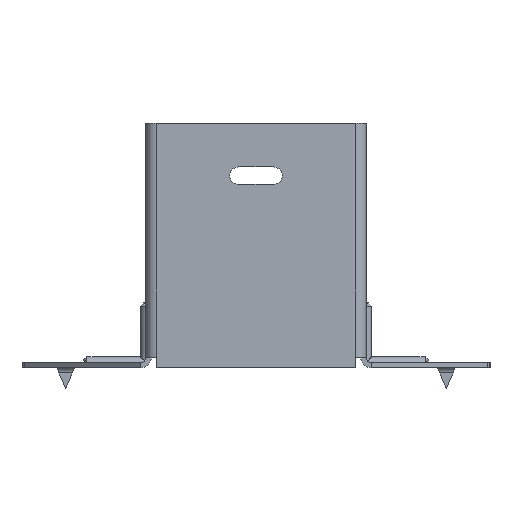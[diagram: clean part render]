
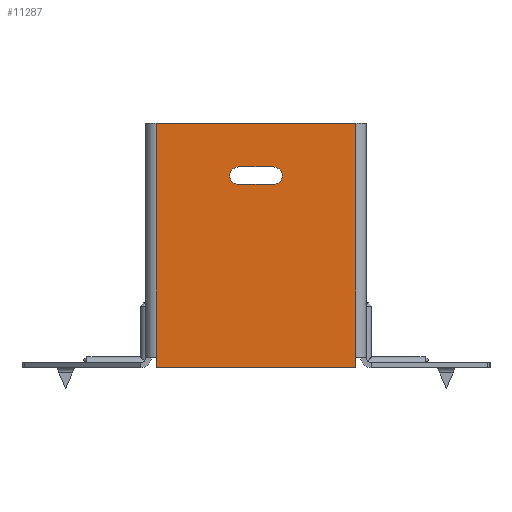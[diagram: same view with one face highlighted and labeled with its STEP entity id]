
A CAD part, front view. The second image highlights one B-rep face of the part: STEP entity #11287.
In plain terms, the highlighted planar face has unit normal (0, -1, 0).
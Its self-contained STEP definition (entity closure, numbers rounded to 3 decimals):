
#372 = ORIENTED_EDGE ( 'NONE', *, *, #1079, .T. ) ;
#516 = DIRECTION ( 'NONE',  ( 0., 0., 1. ) ) ;
#1079 = EDGE_CURVE ( 'NONE', #17560, #4650, #9767, .T. ) ;
#1291 = DIRECTION ( 'NONE',  ( 0., 0., 1. ) ) ;
#1431 = VECTOR ( 'NONE', #1291, 1000. ) ;
#1752 = DIRECTION ( 'NONE',  ( 0., 0., 1. ) ) ;
#1801 = ORIENTED_EDGE ( 'NONE', *, *, #13759, .T. ) ;
#1827 = FACE_BOUND ( 'NONE', #5494, .T. ) ;
#1831 = CIRCLE ( 'NONE', #5730, 2.5 ) ;
#2045 = DIRECTION ( 'NONE',  ( 0., 0., 1. ) ) ;
#2130 = VERTEX_POINT ( 'NONE', #10837 ) ;
#2208 = DIRECTION ( 'NONE',  ( -1., 0., 0. ) ) ;
#2437 = DIRECTION ( 'NONE',  ( 0., 0., -1. ) ) ;
#2515 = LINE ( 'NONE', #12326, #14431 ) ;
#2788 = VERTEX_POINT ( 'NONE', #18634 ) ;
#3167 = CARTESIAN_POINT ( 'NONE',  ( 28.5, 0., -70. ) ) ;
#3242 = CARTESIAN_POINT ( 'NONE',  ( -28.5, 0., 0. ) ) ;
#3283 = CIRCLE ( 'NONE', #11345, 2.5 ) ;
#3407 = EDGE_CURVE ( 'NONE', #12753, #2788, #17174, .T. ) ;
#3737 = DIRECTION ( 'NONE',  ( 1., 0., 0. ) ) ;
#3908 = VECTOR ( 'NONE', #15696, 1000. ) ;
#4015 = ORIENTED_EDGE ( 'NONE', *, *, #17749, .T. ) ;
#4337 = VECTOR ( 'NONE', #1752, 1000. ) ;
#4543 = VERTEX_POINT ( 'NONE', #10215 ) ;
#4650 = VERTEX_POINT ( 'NONE', #10650 ) ;
#4764 = LINE ( 'NONE', #3167, #1431 ) ;
#5494 = EDGE_LOOP ( 'NONE', ( #9152, #1801, #372, #4015 ) ) ;
#5690 = CARTESIAN_POINT ( 'NONE',  ( -5., 0., -12.5 ) ) ;
#5730 = AXIS2_PLACEMENT_3D ( 'NONE', #13702, #9386, #2045 ) ;
#6153 = DIRECTION ( 'NONE',  ( 0., 1., 0. ) ) ;
#6350 = CARTESIAN_POINT ( 'NONE',  ( -5., 0., -15. ) ) ;
#6747 = VECTOR ( 'NONE', #9003, 1000. ) ;
#7010 = ORIENTED_EDGE ( 'NONE', *, *, #17676, .T. ) ;
#7086 = VECTOR ( 'NONE', #2208, 1000. ) ;
#7510 = EDGE_CURVE ( 'NONE', #12707, #4543, #12480, .T. ) ;
#7711 = CARTESIAN_POINT ( 'NONE',  ( 0., 0., 0. ) ) ;
#8038 = CARTESIAN_POINT ( 'NONE',  ( 28.5, 0., 0. ) ) ;
#8071 = ORIENTED_EDGE ( 'NONE', *, *, #3407, .T. ) ;
#8188 = CARTESIAN_POINT ( 'NONE',  ( -28.5, 0., 0. ) ) ;
#8389 = CARTESIAN_POINT ( 'NONE',  ( -30., 0., -70. ) ) ;
#8508 = CARTESIAN_POINT ( 'NONE',  ( -5., 0., -12.5 ) ) ;
#8837 = CARTESIAN_POINT ( 'NONE',  ( 28.5, 0., -70. ) ) ;
#9003 = DIRECTION ( 'NONE',  ( 0., 0., -1. ) ) ;
#9152 = ORIENTED_EDGE ( 'NONE', *, *, #7510, .T. ) ;
#9386 = DIRECTION ( 'NONE',  ( 0., 1., 0. ) ) ;
#9751 = AXIS2_PLACEMENT_3D ( 'NONE', #7711, #6153, #12117 ) ;
#9767 = LINE ( 'NONE', #5690, #10003 ) ;
#10003 = VECTOR ( 'NONE', #10029, 1000. ) ;
#10029 = DIRECTION ( 'NONE',  ( 1., 0., 0. ) ) ;
#10215 = CARTESIAN_POINT ( 'NONE',  ( -5., 0., -17.5 ) ) ;
#10650 = CARTESIAN_POINT ( 'NONE',  ( 5., 0., -12.5 ) ) ;
#10665 = CARTESIAN_POINT ( 'NONE',  ( -28.5, 0., 0. ) ) ;
#10801 = CARTESIAN_POINT ( 'NONE',  ( -5., 0., -17.5 ) ) ;
#10837 = CARTESIAN_POINT ( 'NONE',  ( 28.5, 0., -67. ) ) ;
#10958 = VERTEX_POINT ( 'NONE', #8038 ) ;
#11287 = ADVANCED_FACE ( 'NONE', ( #1827, #17780 ), #14770, .F. ) ;
#11345 = AXIS2_PLACEMENT_3D ( 'NONE', #6350, #12065, #516 ) ;
#11400 = ORIENTED_EDGE ( 'NONE', *, *, #14990, .T. ) ;
#11710 = ORIENTED_EDGE ( 'NONE', *, *, #17331, .F. ) ;
#12065 = DIRECTION ( 'NONE',  ( 0., 1., 0. ) ) ;
#12117 = DIRECTION ( 'NONE',  ( 0., 0., 1. ) ) ;
#12326 = CARTESIAN_POINT ( 'NONE',  ( -30., 0., 0. ) ) ;
#12480 = LINE ( 'NONE', #10801, #7086 ) ;
#12707 = VERTEX_POINT ( 'NONE', #18351 ) ;
#12753 = VERTEX_POINT ( 'NONE', #10665 ) ;
#13368 = VERTEX_POINT ( 'NONE', #15291 ) ;
#13492 = LINE ( 'NONE', #3242, #6747 ) ;
#13534 = VECTOR ( 'NONE', #2437, 1000. ) ;
#13702 = CARTESIAN_POINT ( 'NONE',  ( 5., 0., -15. ) ) ;
#13759 = EDGE_CURVE ( 'NONE', #4543, #17560, #3283, .T. ) ;
#14431 = VECTOR ( 'NONE', #3737, 1000. ) ;
#14631 = EDGE_CURVE ( 'NONE', #17451, #13368, #15850, .T. ) ;
#14770 = PLANE ( 'NONE',  #9751 ) ;
#14990 = EDGE_CURVE ( 'NONE', #2130, #10958, #18073, .T. ) ;
#15159 = ORIENTED_EDGE ( 'NONE', *, *, #14631, .F. ) ;
#15291 = CARTESIAN_POINT ( 'NONE',  ( -28.5, 0., -70. ) ) ;
#15696 = DIRECTION ( 'NONE',  ( -1., 0., 0. ) ) ;
#15850 = LINE ( 'NONE', #8389, #3908 ) ;
#16436 = EDGE_CURVE ( 'NONE', #17451, #2130, #4764, .T. ) ;
#17174 = LINE ( 'NONE', #8188, #13534 ) ;
#17331 = EDGE_CURVE ( 'NONE', #12753, #10958, #2515, .T. ) ;
#17451 = VERTEX_POINT ( 'NONE', #18462 ) ;
#17485 = ORIENTED_EDGE ( 'NONE', *, *, #16436, .T. ) ;
#17560 = VERTEX_POINT ( 'NONE', #8508 ) ;
#17676 = EDGE_CURVE ( 'NONE', #2788, #13368, #13492, .T. ) ;
#17749 = EDGE_CURVE ( 'NONE', #4650, #12707, #1831, .T. ) ;
#17780 = FACE_OUTER_BOUND ( 'NONE', #18448, .T. ) ;
#18073 = LINE ( 'NONE', #8837, #4337 ) ;
#18351 = CARTESIAN_POINT ( 'NONE',  ( 5., 0., -17.5 ) ) ;
#18448 = EDGE_LOOP ( 'NONE', ( #8071, #7010, #15159, #17485, #11400, #11710 ) ) ;
#18462 = CARTESIAN_POINT ( 'NONE',  ( 28.5, 0., -70. ) ) ;
#18634 = CARTESIAN_POINT ( 'NONE',  ( -28.5, 0., -67. ) ) ;
